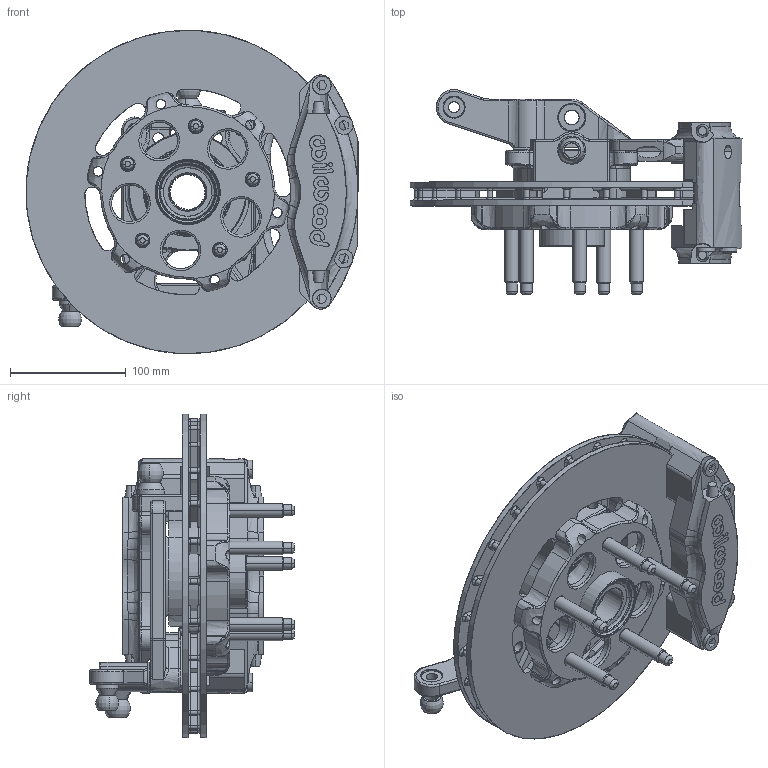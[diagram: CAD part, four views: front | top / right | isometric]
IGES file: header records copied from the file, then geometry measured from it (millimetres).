
Start section: SolidWorks IGES file using analytic representation for surfaces
Global section: file name: C:\projects\PM Parts\GT Upright assembly B.IGS; native system: SolidWorks 2010; preprocessor: SolidWorks 2010; author: dp; date: 100301.201033; units: inch
Bounding box: 286.65 x 177 x 279.23 mm (x, y, z)
Surface area: 439068.1 mm2 (no closed solid volume)
Topology: 0 solids, 0 shells, 1391 faces, 20525 edges, 20500 vertices
Faces by surface type: revolution 697, bspline 694
